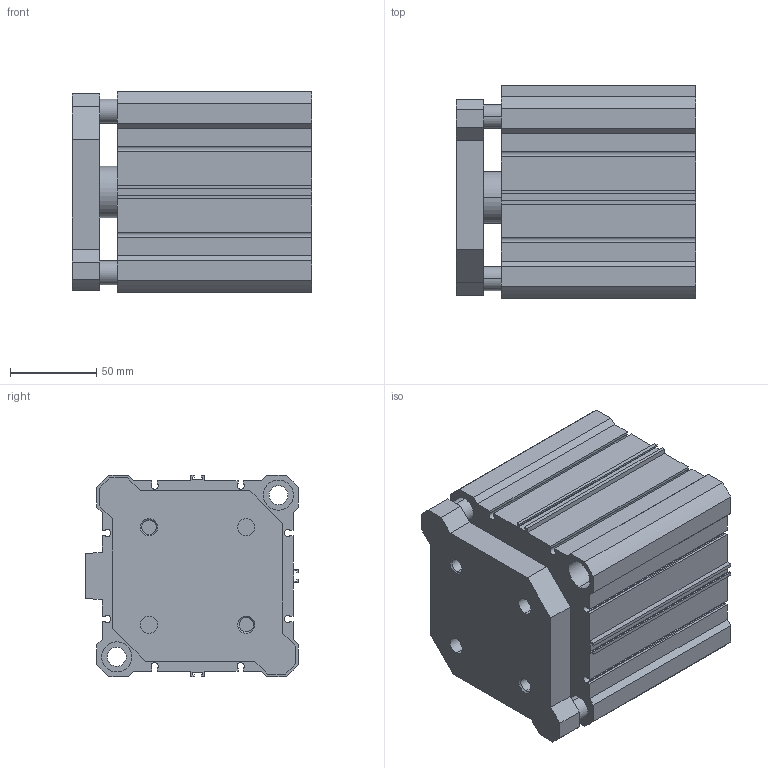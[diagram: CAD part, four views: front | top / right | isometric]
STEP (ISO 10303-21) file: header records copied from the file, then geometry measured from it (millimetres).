
FILE_DESCRIPTION (( 'STEP AP203' ), '1' );
FILE_NAME ('CCMG100-50.STEP', '2020-04-01T18:54:16', ( '' ), ( '' ), 'SwSTEP 2.0', 'SolidWorks 2019', '' );
FILE_SCHEMA (( 'CONFIG_CONTROL_DESIGN' ));
Length unit declared in the file: millimetre
Products named in the file (1): CCMG100-50
Bounding box: 139 x 123.5 x 117 mm (x, y, z)
Volume: 1223417 mm3; surface area: 205774.8 mm2
Topology: 2 solids, 2 shells, 194 faces, 518 edges, 338 vertices
Faces by surface type: plane 114, cylinder 64, cone 16
Entity records: 6105 total; most frequent: CARTESIAN_POINT 1047, DIRECTION 1044, ORIENTED_EDGE 1028, EDGE_CURVE 514, LINE 374, VECTOR 374, VERTEX_POINT 338, AXIS2_PLACEMENT_3D 335
